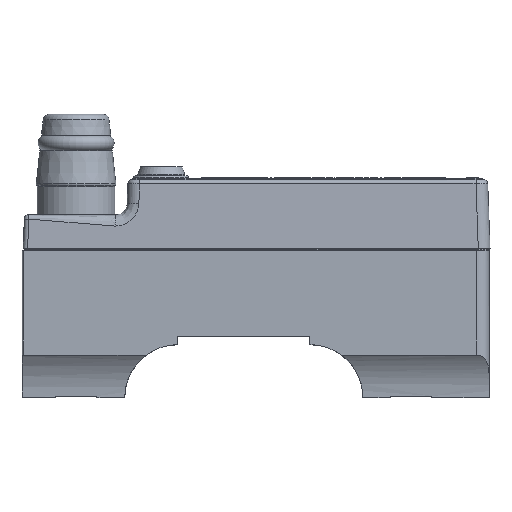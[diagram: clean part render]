
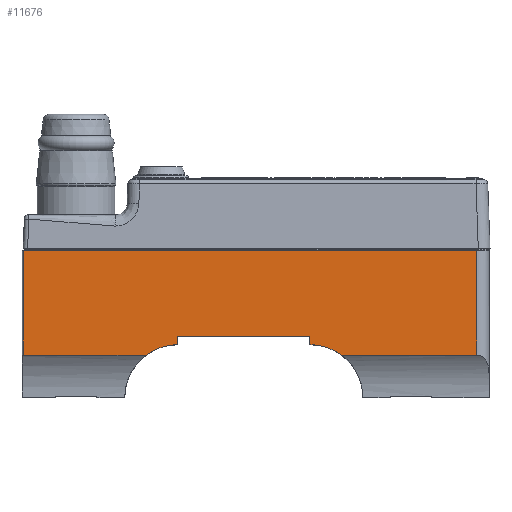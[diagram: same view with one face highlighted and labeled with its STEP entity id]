
A CAD part, top view. The second image highlights one B-rep face of the part: STEP entity #11676.
In plain terms, the highlighted planar face has unit normal (0, 0, 1).
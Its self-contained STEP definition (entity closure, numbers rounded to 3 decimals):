
#1476=LINE('',#19203,#2667);
#1561=LINE('',#19563,#2752);
#1562=LINE('',#19582,#2753);
#1570=LINE('',#19624,#2761);
#1578=LINE('',#19674,#2769);
#1587=LINE('',#19744,#2778);
#1589=LINE('',#19748,#2780);
#1591=LINE('',#19751,#2782);
#2667=VECTOR('',#14173,10.);
#2752=VECTOR('',#14376,10.);
#2753=VECTOR('',#14379,10.);
#2761=VECTOR('',#14407,10.);
#2769=VECTOR('',#14427,10.);
#2778=VECTOR('',#14526,10.);
#2780=VECTOR('',#14530,10.);
#2782=VECTOR('',#14534,10.);
#3252=PLANE('',#12281);
#4151=FACE_OUTER_BOUND('',#4866,.T.);
#4866=EDGE_LOOP('',(#10715,#10716,#10717,#10718,#10719,#10720,#10721,#10722,
#10723,#10724));
#5025=CIRCLE('',#12237,18.);
#5032=CIRCLE('',#12250,18.);
#5971=VERTEX_POINT('',#19200);
#5972=VERTEX_POINT('',#19202);
#6044=VERTEX_POINT('',#19562);
#6045=VERTEX_POINT('',#19581);
#6057=VERTEX_POINT('',#19622);
#6069=VERTEX_POINT('',#19661);
#6074=VERTEX_POINT('',#19687);
#6076=VERTEX_POINT('',#19704);
#6085=VERTEX_POINT('',#19743);
#6086=VERTEX_POINT('',#19747);
#7484=EDGE_CURVE('',#5972,#5971,#1476,.T.);
#7592=EDGE_CURVE('',#5972,#6044,#1561,.T.);
#7594=EDGE_CURVE('',#6045,#6044,#1562,.T.);
#7610=EDGE_CURVE('',#6057,#5971,#1570,.T.);
#7624=EDGE_CURVE('',#6057,#6069,#1578,.T.);
#7631=EDGE_CURVE('',#6074,#6045,#5025,.T.);
#7641=EDGE_CURVE('',#6069,#6076,#5032,.T.);
#7654=EDGE_CURVE('',#6085,#6074,#1587,.T.);
#7656=EDGE_CURVE('',#6086,#6085,#1589,.T.);
#7658=EDGE_CURVE('',#6076,#6086,#1591,.T.);
#10715=ORIENTED_EDGE('',*,*,#7592,.F.);
#10716=ORIENTED_EDGE('',*,*,#7484,.T.);
#10717=ORIENTED_EDGE('',*,*,#7610,.F.);
#10718=ORIENTED_EDGE('',*,*,#7624,.T.);
#10719=ORIENTED_EDGE('',*,*,#7641,.T.);
#10720=ORIENTED_EDGE('',*,*,#7658,.T.);
#10721=ORIENTED_EDGE('',*,*,#7656,.T.);
#10722=ORIENTED_EDGE('',*,*,#7654,.T.);
#10723=ORIENTED_EDGE('',*,*,#7631,.T.);
#10724=ORIENTED_EDGE('',*,*,#7594,.T.);
#11676=ADVANCED_FACE('',(#4151),#3252,.T.);
#12237=AXIS2_PLACEMENT_3D('',#19688,#14440,#14441);
#12250=AXIS2_PLACEMENT_3D('',#19706,#14469,#14470);
#12281=AXIS2_PLACEMENT_3D('',#19753,#14537,#14538);
#14173=DIRECTION('',(-1.,0.,0.));
#14376=DIRECTION('',(0.,-1.,0.));
#14379=DIRECTION('',(1.,0.,0.));
#14407=DIRECTION('',(0.,1.,0.));
#14427=DIRECTION('',(1.,0.,0.));
#14440=DIRECTION('center_axis',(0.,0.,-1.));
#14441=DIRECTION('ref_axis',(1.,0.,0.));
#14469=DIRECTION('center_axis',(0.,0.,-1.));
#14470=DIRECTION('ref_axis',(0.,1.,0.));
#14526=DIRECTION('',(0.,-1.,0.));
#14530=DIRECTION('',(1.,0.,0.));
#14534=DIRECTION('',(0.,1.,0.));
#14537=DIRECTION('center_axis',(0.,0.,1.));
#14538=DIRECTION('ref_axis',(1.,0.,0.));
#19200=CARTESIAN_POINT('',(-51.229,15.605,18.752));
#19202=CARTESIAN_POINT('',(102.971,15.605,18.752));
#19203=CARTESIAN_POINT('',(-51.729,15.605,18.752));
#19562=CARTESIAN_POINT('',(102.971,-19.949,18.752));
#19563=CARTESIAN_POINT('',(102.971,-20.461,18.752));
#19581=CARTESIAN_POINT('',(57.01,-19.949,18.752));
#19582=CARTESIAN_POINT('',(-51.729,-19.949,18.752));
#19622=CARTESIAN_POINT('',(-51.229,-19.949,18.752));
#19624=CARTESIAN_POINT('',(-51.229,4.539,18.752));
#19661=CARTESIAN_POINT('',(-9.467,-19.949,18.752));
#19674=CARTESIAN_POINT('',(-51.729,-19.949,18.752));
#19687=CARTESIAN_POINT('',(46.271,-16.395,18.752));
#19688=CARTESIAN_POINT('Origin',(46.271,-34.395,18.752));
#19704=CARTESIAN_POINT('',(1.271,-16.395,18.752));
#19706=CARTESIAN_POINT('Origin',(1.271,-34.395,18.752));
#19743=CARTESIAN_POINT('',(46.271,-13.495,18.752));
#19744=CARTESIAN_POINT('',(46.271,-16.395,18.752));
#19747=CARTESIAN_POINT('',(1.271,-13.495,18.752));
#19748=CARTESIAN_POINT('',(46.271,-13.495,18.752));
#19751=CARTESIAN_POINT('',(1.271,-13.495,18.752));
#19753=CARTESIAN_POINT('Origin',(27.658,-6.527,18.752));
